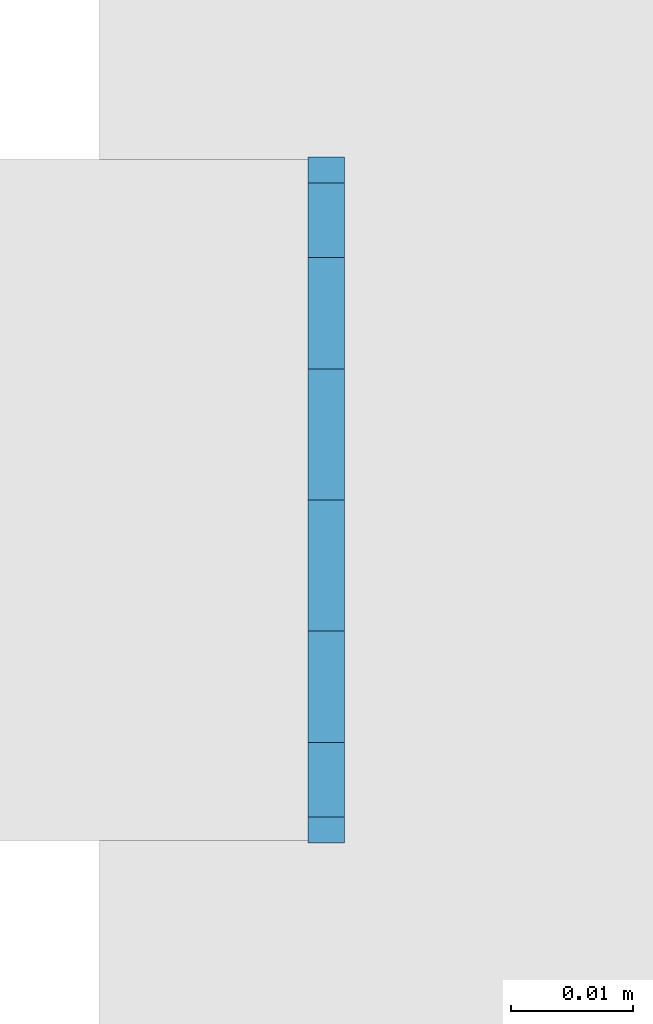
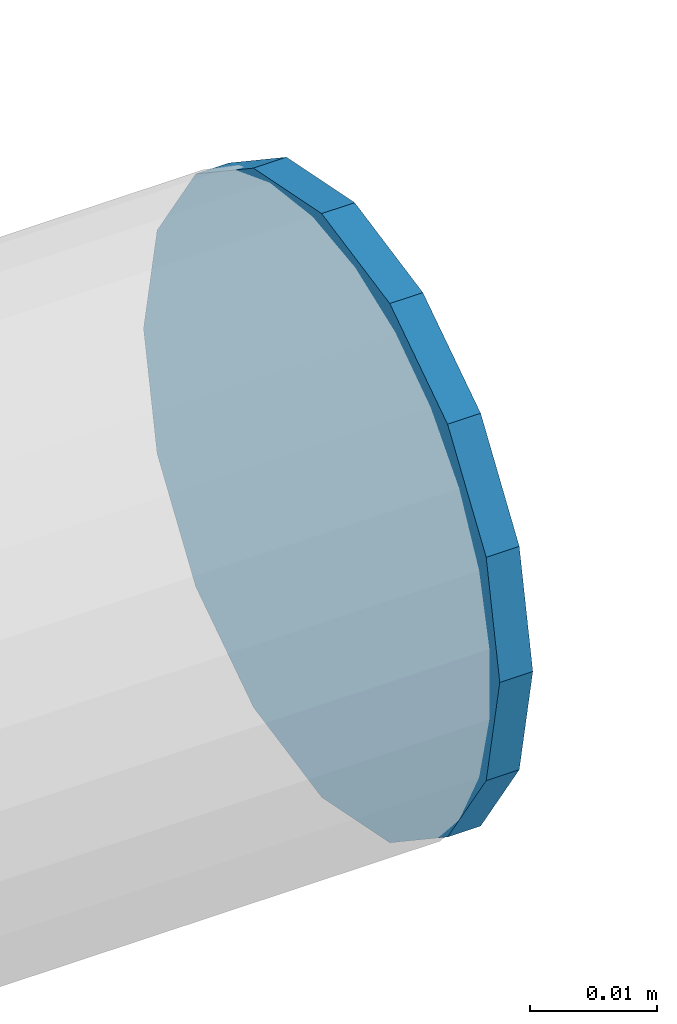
# One storey, part 60 of 186: 1 beam.
"""IFC4X3_ADD2 building model written with IfcOpenShell, lengths in millimetres."""

import ifcopenshell
import ifcopenshell.guid

model = None  # the IFC model being written
_history = None  # IfcOwnerHistory: only IFC2X3 demands one
_inside = {}  # id of a spatial element -> (the spatial element, [elements in it])
_under = {}  # id of a project, library or spatial element -> (it, [spatial elements below it])
_declared = {}  # id of a project -> (the project, [libraries it declares])
_typed = {}  # id of a type object -> (the type object, [elements of that type])
_made_of = {}  # id of a material, layer set ... -> (it, [elements and type objects made of it])


def new_model(schema):
    """Start an empty IFC model of exactly this schema.

    Asked for "IFC4X3", IfcOpenShell would pick the latest addendum, in which some entities
    have other attributes; the version numbers below select the first issue.
    IFC2X3 requires an IfcOwnerHistory on every rooted entity: one is made here for all.
    """
    global model, _history
    if schema == "IFC4X3":
        model = ifcopenshell.file(schema_version=(4, 3, 0, 0))
    else:
        model = ifcopenshell.file(schema=schema)
    _inside.clear()
    _under.clear()
    _declared.clear()
    _typed.clear()
    _made_of.clear()
    _history = None
    if model.schema == "IFC2X3":
        org = make("IfcOrganization", Name="unknown")
        user = make(
            "IfcPersonAndOrganization",
            ThePerson=make("IfcPerson", FamilyName="unknown"),
            TheOrganization=org,
        )
        app = make(
            "IfcApplication",
            ApplicationDeveloper=org,
            Version="unknown",
            ApplicationFullName="unknown",
            ApplicationIdentifier="unknown",
        )
        _history = make(
            "IfcOwnerHistory",
            OwningUser=user,
            OwningApplication=app,
            ChangeAction="ADDED",
            CreationDate=0,
        )
    return model


def make(cls, **values):
    """One entity of the class cls with the attributes given. An attribute that is None is left unset."""
    return model.create_entity(
        cls, **{name: value for name, value in values.items() if value is not None}
    )


def rooted(cls, **values):
    """An entity with a GlobalId (a new one), such as an element, a storey or a relation."""
    return make(cls, GlobalId=ifcopenshell.guid.new(), OwnerHistory=_history, **values)


def si_unit(unit_type, name, prefix=None):
    """IfcSIUnit, for example si_unit("LENGTHUNIT", "METRE", prefix="MILLI")."""
    return make("IfcSIUnit", UnitType=unit_type, Prefix=prefix, Name=name)


def assignment(units):
    """IfcUnitAssignment: the units of a project."""
    return None if units is None else make("IfcUnitAssignment", Units=units)


def point(xyz):
    """IfcCartesianPoint."""
    return None if xyz is None else make("IfcCartesianPoint", Coordinates=xyz)


def direction(xyz):
    """IfcDirection."""
    return None if xyz is None else make("IfcDirection", DirectionRatios=xyz)


def frame(location, z_axis=None, x_axis=None):
    """IfcAxis2Placement3D, a coordinate frame: its origin and axes. An axis left out is left unset."""
    return make(
        "IfcAxis2Placement3D",
        Location=point(location),
        Axis=direction(z_axis),
        RefDirection=direction(x_axis),
    )


def origin_with_axes():
    """The frame at (0, 0, 0) with the z axis (0, 0, 1) and the x axis (1, 0, 0) written out."""
    return frame((0.0, 0.0, 0.0), z_axis=(0.0, 0.0, 1.0), x_axis=(1.0, 0.0, 0.0))


def place(relative_to, where):
    """IfcLocalPlacement: puts the frame where relative to a parent placement (None: the world)."""
    return make(
        "IfcLocalPlacement", PlacementRelTo=relative_to, RelativePlacement=where
    )


def context(
    kind, dimensions, precision=None, world=None, true_north=None, identifier=None
):
    """IfcGeometricRepresentationContext, for example the 3D "Model" context."""
    return make(
        "IfcGeometricRepresentationContext",
        ContextIdentifier=identifier,
        ContextType=kind,
        CoordinateSpaceDimension=dimensions,
        Precision=precision,
        WorldCoordinateSystem=world,
        TrueNorth=true_north,
    )


def subcontext(parent, identifier, kind, view, scale=None):
    """IfcGeometricRepresentationSubContext, for example "Body" below "Model"."""
    return make(
        "IfcGeometricRepresentationSubContext",
        ContextIdentifier=identifier,
        ContextType=kind,
        ParentContext=parent,
        TargetScale=scale,
        TargetView=view,
    )


def project(units=None, contexts=None):
    """IfcProject with its units and contexts."""
    return rooted(
        "IfcProject",
        Name="project",
        RepresentationContexts=contexts,
        UnitsInContext=assignment(units),
    )


def spatial(cls, under=None, at=None, **own):
    """A site, building, storey or space (cls), placed at a placement, below another one or the project."""
    s = rooted(cls, ObjectPlacement=at, **own)
    if under is not None:
        _under.setdefault(under.id(), (under, []))[1].append(s)
    return s


def point_list(points):
    """IfcCartesianPointList2D or 3D."""
    cls = (
        "IfcCartesianPointList2D" if len(points[0]) == 2 else "IfcCartesianPointList3D"
    )
    return make(cls, CoordList=points)


def indexed_curve(points, segments=None, self_intersect=None):
    """IfcIndexedPolyCurve: lines and arcs through numbered points (the first is 1)."""
    return make(
        "IfcIndexedPolyCurve",
        Points=point_list(points),
        Segments=segments,
        SelfIntersect=self_intersect,
    )


def outline(outer, holes=None, kind="AREA"):
    """IfcArbitraryClosedProfileDef: a profile drawn as a closed curve; with holes, ...WithVoids."""
    if holes is None:
        return make("IfcArbitraryClosedProfileDef", ProfileType=kind, OuterCurve=outer)
    return make(
        "IfcArbitraryProfileDefWithVoids",
        ProfileType=kind,
        OuterCurve=outer,
        InnerCurves=holes,
    )


def extrude(swept, where, along, depth):
    """IfcExtrudedAreaSolid: the profile swept, set in the frame where, extruded along a direction by depth."""
    return make(
        "IfcExtrudedAreaSolid",
        SweptArea=swept,
        Position=where,
        ExtrudedDirection=direction(along),
        Depth=depth,
    )


def shape(context_of_items, identifier, shape_type, items):
    """IfcShapeRepresentation: the items that make up one representation, for example the "Body"."""
    return make(
        "IfcShapeRepresentation",
        ContextOfItems=context_of_items,
        RepresentationIdentifier=identifier,
        RepresentationType=shape_type,
        Items=items,
    )


def material(Name=None, Category=None):
    """IfcMaterial."""
    return make("IfcMaterial", Name=Name, Category=Category)


def made_of(thing, what):
    """Note that an element or type object is made of a material, layer set ...; save() writes the relation."""
    if what is not None:
        _made_of.setdefault(what.id(), (what, []))[1].append(thing)
    return thing


def element(
    cls,
    number,
    at=None,
    inside=None,
    cuts=None,
    type_object=None,
    material=None,
    context=None,
    identifier="Body",
    shape_type=None,
    held_by="IfcProductDefinitionShape",
    body=None,
    shapes=None,
    **own,
):
    """One element of the class cls, such as IfcWall. Its Tag is "e" and its number.

    at: its placement. inside: the storey or other place that contains it. cuts: it is an
    opening in that element (IfcRelVoidsElement). A single representation is given by context,
    identifier, shape_type and body (its items); several are given by shapes. held_by: the class
    of the entity that holds the representations. save() writes the other relations.
    """
    e = rooted(cls, Tag="e%d" % number, ObjectPlacement=at, **own)
    if body is not None:
        shapes = [shape(context, identifier, shape_type, body)]
    if shapes is not None:
        e.Representation = make(held_by, Representations=shapes)
    if inside is not None:
        _inside.setdefault(inside.id(), (inside, []))[1].append(e)
    if cuts is not None:
        rooted(
            "IfcRelVoidsElement", RelatingBuildingElement=cuts, RelatedOpeningElement=e
        )
    if type_object is not None:
        _typed.setdefault(type_object.id(), (type_object, []))[1].append(e)
    return made_of(e, material)


def aggregate(whole, parts):
    """IfcRelAggregates: a whole, such as a stair, and the parts it consists of."""
    return rooted("IfcRelAggregates", RelatingObject=whole, RelatedObjects=parts)


def save(model, path):
    """Write the relations noted so far, then the file.

    IfcRelAggregates (storeys below a building ...), IfcRelContainedInSpatialStructure (elements
    in a storey), IfcRelDefinesByType, IfcRelAssociatesMaterial and IfcRelDeclares: one each for
    every whole, place, type object, material and project.
    """
    for whole, parts in _under.values():
        aggregate(whole, parts)
    for where, things in _inside.values():
        rooted(
            "IfcRelContainedInSpatialStructure",
            RelatedElements=things,
            RelatingStructure=where,
        )
    for kind, things in _typed.values():
        rooted("IfcRelDefinesByType", RelatedObjects=things, RelatingType=kind)
    for what, things in _made_of.values():
        rooted("IfcRelAssociatesMaterial", RelatedObjects=things, RelatingMaterial=what)
    for by, libraries in _declared.values():
        rooted("IfcRelDeclares", RelatingContext=by, RelatedDefinitions=libraries)
    model.write(path)


model = new_model("IFC4X3_ADD2")

# Units and contexts
model_context = context("Model", 3, precision=1e-05, world=origin_with_axes(), true_north=direction((0.0, 1.0)))
body_context = subcontext(model_context, "Body", "Model", "MODEL_VIEW")
ifc_project = project(units=[si_unit("LENGTHUNIT", "METRE", prefix="MILLI"), si_unit("AREAUNIT", "SQUARE_METRE"), si_unit("VOLUMEUNIT", "CUBIC_METRE"), si_unit("PLANEANGLEUNIT", "RADIAN"), si_unit("TIMEUNIT", "SECOND"), si_unit("MASSUNIT", "GRAM")], contexts=[model_context])

# Site, building, storey
site_placement = place(None, origin_with_axes())
site = spatial("IfcSite", under=ifc_project, at=site_placement, Name="Site", CompositionType="ELEMENT")
building_placement = place(site_placement, origin_with_axes())
building = spatial("IfcBuilding", under=site, at=building_placement, Name="IFC Building Story")
storey_placement = place(building_placement, frame((0.0, 0.0, 4370.0), z_axis=(0.0, 0.0, 1.0), x_axis=(1.0, 0.0, 0.0)))
storey = spatial("IfcBuildingStorey", under=building, at=storey_placement, Name="ETAGE 10 (1)", Elevation=4370.0)

# Beam
ifc_material = material(Name="STEEL/Accessory 22919")
beam_placement = place(storey_placement, frame((16751.18882696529, 349.9999637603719, 1333.48), z_axis=(-1.0, 0.0, 0.0), x_axis=(0.0, 0.5555702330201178, 0.8314696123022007)))
element("IfcBeam", 1, at=beam_placement, inside=storey, material=ifc_material, Name="TA4", ObjectType="D56", context=body_context, shape_type="SweptSolid", body=[
    extrude(outline(indexed_curve([(23.28114914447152, 15.55596652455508), (27.46198785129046, 5.462529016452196), (27.46198785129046, -5.462529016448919), (23.28114914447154, -15.55596652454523), (15.55596652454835, -23.28114914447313), (5.462529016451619, -27.46198785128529), (-5.462529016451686, -27.46198785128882), (-15.55596652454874, -23.28114914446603), (-23.2811491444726, -15.55596652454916), (-27.46198785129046, -5.462529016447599), (-27.46198785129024, 5.462529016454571), (-23.28114914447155, 15.55596652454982), (-15.55596652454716, 23.28114914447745), (-5.462529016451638, 27.46198785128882), (5.462529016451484, 27.46198785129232), (15.55596652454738, 23.28114914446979), (23.28114914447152, 15.55596652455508)])), origin_with_axes(), (0.0, 0.0, 1.0), 2.999999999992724),
])

save(model, "model.ifc")
